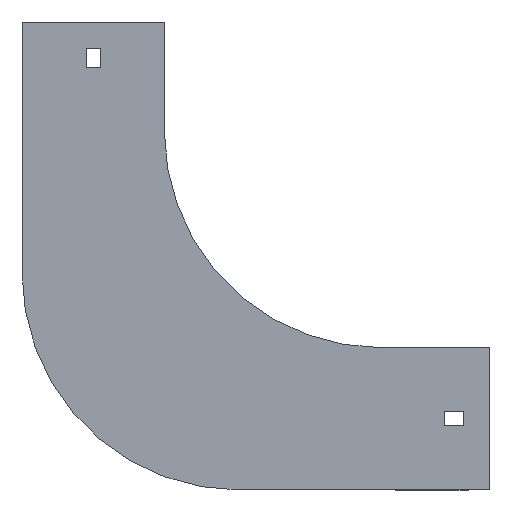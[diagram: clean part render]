
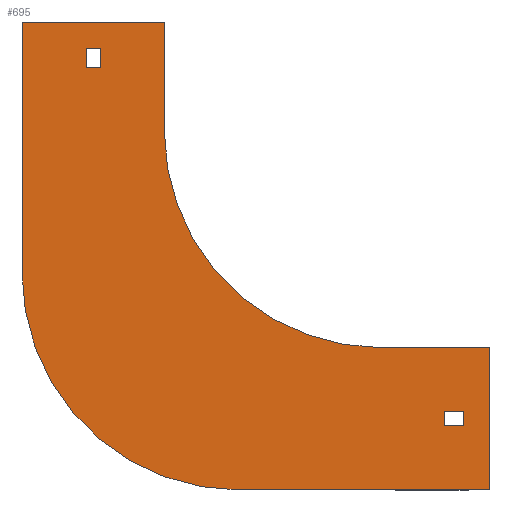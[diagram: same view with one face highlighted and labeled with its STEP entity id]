
A CAD part, front view. The second image highlights one B-rep face of the part: STEP entity #695.
In plain terms, the highlighted planar face has unit normal (0, -1, 0).
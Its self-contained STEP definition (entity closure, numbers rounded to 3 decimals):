
#1 = DIRECTION ( 'NONE',  ( -1., 0., 0. ) ) ;
#6 = EDGE_CURVE ( 'NONE', #663, #10, #756, .T. ) ;
#10 = VERTEX_POINT ( 'NONE', #207 ) ;
#12 = CARTESIAN_POINT ( 'NONE',  ( -136., 0., 29. ) ) ;
#13 = VECTOR ( 'NONE', #1178, 1000. ) ;
#18 = DIRECTION ( 'NONE',  ( 0., 0., 1. ) ) ;
#43 = DIRECTION ( 'NONE',  ( 0., 0., -1. ) ) ;
#48 = CARTESIAN_POINT ( 'NONE',  ( 0., 0., -100. ) ) ;
#55 = EDGE_CURVE ( 'NONE', #227, #1187, #323, .T. ) ;
#67 = CARTESIAN_POINT ( 'NONE',  ( 38., 0., -136. ) ) ;
#72 = CARTESIAN_POINT ( 'NONE',  ( -65.5, 0., -165.5 ) ) ;
#78 = DIRECTION ( 'NONE',  ( 0., 0., 1. ) ) ;
#80 = EDGE_CURVE ( 'NONE', #1276, #1072, #1283, .T. ) ;
#102 = VERTEX_POINT ( 'NONE', #766 ) ;
#111 = ORIENTED_EDGE ( 'NONE', *, *, #1318, .F. ) ;
#125 = CARTESIAN_POINT ( 'NONE',  ( 50., 0., -100. ) ) ;
#126 = CARTESIAN_POINT ( 'NONE',  ( 38., 0., -129.5 ) ) ;
#131 = ORIENTED_EDGE ( 'NONE', *, *, #252, .F. ) ;
#144 = VECTOR ( 'NONE', #1393, 1000. ) ;
#170 = CARTESIAN_POINT ( 'NONE',  ( -136., 0., 38. ) ) ;
#171 = VERTEX_POINT ( 'NONE', #1371 ) ;
#181 = CARTESIAN_POINT ( 'NONE',  ( -100., 0., 50. ) ) ;
#188 = VECTOR ( 'NONE', #1220, 1000. ) ;
#204 = ORIENTED_EDGE ( 'NONE', *, *, #1217, .F. ) ;
#207 = CARTESIAN_POINT ( 'NONE',  ( 29., 0., -136. ) ) ;
#227 = VERTEX_POINT ( 'NONE', #963 ) ;
#237 = EDGE_CURVE ( 'NONE', #1014, #1030, #1287, .T. ) ;
#247 = VECTOR ( 'NONE', #604, 1000. ) ;
#250 = CARTESIAN_POINT ( 'NONE',  ( 50., 0., -165.5 ) ) ;
#252 = EDGE_CURVE ( 'NONE', #1072, #171, #415, .T. ) ;
#265 = CARTESIAN_POINT ( 'NONE',  ( -165.5, 0., 50. ) ) ;
#268 = DIRECTION ( 'NONE',  ( -1., 0., 0. ) ) ;
#269 = CARTESIAN_POINT ( 'NONE',  ( 0., 0., 0. ) ) ;
#276 = DIRECTION ( 'NONE',  ( 0., 0., -1. ) ) ;
#278 = VECTOR ( 'NONE', #495, 1000. ) ;
#302 = CARTESIAN_POINT ( 'NONE',  ( -129.5, 0., 29. ) ) ;
#307 = ORIENTED_EDGE ( 'NONE', *, *, #797, .T. ) ;
#311 = CARTESIAN_POINT ( 'NONE',  ( 29., 0., -129.5 ) ) ;
#313 = DIRECTION ( 'NONE',  ( 0., 0., -1. ) ) ;
#323 = LINE ( 'NONE', #125, #802 ) ;
#370 = FACE_BOUND ( 'NONE', #711, .T. ) ;
#381 = ORIENTED_EDGE ( 'NONE', *, *, #689, .T. ) ;
#387 = ORIENTED_EDGE ( 'NONE', *, *, #630, .F. ) ;
#415 = LINE ( 'NONE', #734, #247 ) ;
#437 = DIRECTION ( 'NONE',  ( -1., 0., 0. ) ) ;
#442 = ORIENTED_EDGE ( 'NONE', *, *, #791, .F. ) ;
#447 = ORIENTED_EDGE ( 'NONE', *, *, #1043, .T. ) ;
#464 = FACE_BOUND ( 'NONE', #721, .T. ) ;
#486 = VECTOR ( 'NONE', #1345, 1000. ) ;
#490 = EDGE_CURVE ( 'NONE', #1026, #227, #572, .T. ) ;
#494 = DIRECTION ( 'NONE',  ( 0., -1., 0. ) ) ;
#495 = DIRECTION ( 'NONE',  ( 1., 0., 0. ) ) ;
#568 = VECTOR ( 'NONE', #1024, 1000. ) ;
#572 = LINE ( 'NONE', #48, #278 ) ;
#573 = VERTEX_POINT ( 'NONE', #126 ) ;
#587 = VERTEX_POINT ( 'NONE', #1012 ) ;
#602 = AXIS2_PLACEMENT_3D ( 'NONE', #790, #1243, #18 ) ;
#604 = DIRECTION ( 'NONE',  ( 0., 0., 1. ) ) ;
#620 = LINE ( 'NONE', #311, #962 ) ;
#621 = ORIENTED_EDGE ( 'NONE', *, *, #237, .T. ) ;
#630 = EDGE_CURVE ( 'NONE', #1187, #1276, #1118, .T. ) ;
#631 = DIRECTION ( 'NONE',  ( 0., 0., -1. ) ) ;
#647 = EDGE_CURVE ( 'NONE', #171, #1009, #1361, .T. ) ;
#648 = CARTESIAN_POINT ( 'NONE',  ( -100., 0., 50. ) ) ;
#658 = AXIS2_PLACEMENT_3D ( 'NONE', #1018, #1258, #276 ) ;
#661 = EDGE_LOOP ( 'NONE', ( #1086, #131, #1115, #387, #1228, #952, #706, #442 ) ) ;
#662 = LINE ( 'NONE', #12, #1173 ) ;
#663 = VERTEX_POINT ( 'NONE', #1252 ) ;
#666 = VECTOR ( 'NONE', #313, 1000. ) ;
#689 = EDGE_CURVE ( 'NONE', #102, #1014, #889, .T. ) ;
#692 = CARTESIAN_POINT ( 'NONE',  ( -165.5, 0., -65.5 ) ) ;
#695 = ADVANCED_FACE ( 'NONE', ( #370, #1147, #464 ), #925, .T. ) ;
#706 = ORIENTED_EDGE ( 'NONE', *, *, #1089, .F. ) ;
#711 = EDGE_LOOP ( 'NONE', ( #307, #381, #621, #447 ) ) ;
#712 = LINE ( 'NONE', #181, #13 ) ;
#721 = EDGE_LOOP ( 'NONE', ( #111, #796, #1387, #204 ) ) ;
#734 = CARTESIAN_POINT ( 'NONE',  ( -165.5, 0., -65.5 ) ) ;
#756 = LINE ( 'NONE', #1205, #894 ) ;
#766 = CARTESIAN_POINT ( 'NONE',  ( -136., 0., 38. ) ) ;
#769 = VECTOR ( 'NONE', #268, 1000. ) ;
#790 = CARTESIAN_POINT ( 'NONE',  ( -65.5, 0., -65.5 ) ) ;
#791 = EDGE_CURVE ( 'NONE', #1009, #1186, #712, .T. ) ;
#796 = ORIENTED_EDGE ( 'NONE', *, *, #886, .F. ) ;
#797 = EDGE_CURVE ( 'NONE', #587, #102, #1374, .T. ) ;
#801 = DIRECTION ( 'NONE',  ( 0., 0., -1. ) ) ;
#802 = VECTOR ( 'NONE', #43, 1000. ) ;
#877 = VERTEX_POINT ( 'NONE', #1355 ) ;
#882 = CARTESIAN_POINT ( 'NONE',  ( 29., 0., -136. ) ) ;
#886 = EDGE_CURVE ( 'NONE', #10, #877, #1327, .T. ) ;
#889 = LINE ( 'NONE', #170, #486 ) ;
#894 = VECTOR ( 'NONE', #631, 1000. ) ;
#896 = CARTESIAN_POINT ( 'NONE',  ( 0., 0., -100. ) ) ;
#925 = PLANE ( 'NONE',  #658 ) ;
#952 = ORIENTED_EDGE ( 'NONE', *, *, #490, .F. ) ;
#962 = VECTOR ( 'NONE', #1, 1000. ) ;
#963 = CARTESIAN_POINT ( 'NONE',  ( 50., 0., -100. ) ) ;
#1001 = VECTOR ( 'NONE', #78, 1000. ) ;
#1009 = VERTEX_POINT ( 'NONE', #648 ) ;
#1012 = CARTESIAN_POINT ( 'NONE',  ( -136., 0., 29. ) ) ;
#1014 = VERTEX_POINT ( 'NONE', #1126 ) ;
#1018 = CARTESIAN_POINT ( 'NONE',  ( 0., 0., 0. ) ) ;
#1024 = DIRECTION ( 'NONE',  ( 1., 0., 0. ) ) ;
#1026 = VERTEX_POINT ( 'NONE', #896 ) ;
#1030 = VERTEX_POINT ( 'NONE', #1237 ) ;
#1043 = EDGE_CURVE ( 'NONE', #1030, #587, #662, .T. ) ;
#1072 = VERTEX_POINT ( 'NONE', #692 ) ;
#1083 = AXIS2_PLACEMENT_3D ( 'NONE', #269, #494, #801 ) ;
#1086 = ORIENTED_EDGE ( 'NONE', *, *, #647, .F. ) ;
#1089 = EDGE_CURVE ( 'NONE', #1186, #1026, #1150, .T. ) ;
#1115 = ORIENTED_EDGE ( 'NONE', *, *, #80, .F. ) ;
#1118 = LINE ( 'NONE', #250, #769 ) ;
#1126 = CARTESIAN_POINT ( 'NONE',  ( -129.5, 0., 38. ) ) ;
#1147 = FACE_OUTER_BOUND ( 'NONE', #661, .T. ) ;
#1150 = CIRCLE ( 'NONE', #1083, 100. ) ;
#1173 = VECTOR ( 'NONE', #437, 1000. ) ;
#1178 = DIRECTION ( 'NONE',  ( 0., 0., -1. ) ) ;
#1185 = CARTESIAN_POINT ( 'NONE',  ( -136., 0., 29. ) ) ;
#1186 = VERTEX_POINT ( 'NONE', #1189 ) ;
#1187 = VERTEX_POINT ( 'NONE', #1291 ) ;
#1189 = CARTESIAN_POINT ( 'NONE',  ( -100., 0., 0. ) ) ;
#1205 = CARTESIAN_POINT ( 'NONE',  ( 29., 0., -136. ) ) ;
#1217 = EDGE_CURVE ( 'NONE', #573, #663, #620, .T. ) ;
#1220 = DIRECTION ( 'NONE',  ( 1., 0., 0. ) ) ;
#1228 = ORIENTED_EDGE ( 'NONE', *, *, #55, .F. ) ;
#1237 = CARTESIAN_POINT ( 'NONE',  ( -129.5, 0., 29. ) ) ;
#1243 = DIRECTION ( 'NONE',  ( 0., 1., 0. ) ) ;
#1249 = LINE ( 'NONE', #67, #1001 ) ;
#1252 = CARTESIAN_POINT ( 'NONE',  ( 29., 0., -129.5 ) ) ;
#1258 = DIRECTION ( 'NONE',  ( 0., -1., 0. ) ) ;
#1276 = VERTEX_POINT ( 'NONE', #72 ) ;
#1283 = CIRCLE ( 'NONE', #602, 100. ) ;
#1287 = LINE ( 'NONE', #302, #666 ) ;
#1291 = CARTESIAN_POINT ( 'NONE',  ( 50., 0., -165.5 ) ) ;
#1318 = EDGE_CURVE ( 'NONE', #877, #573, #1249, .T. ) ;
#1327 = LINE ( 'NONE', #882, #188 ) ;
#1345 = DIRECTION ( 'NONE',  ( 1., 0., 0. ) ) ;
#1355 = CARTESIAN_POINT ( 'NONE',  ( 38., 0., -136. ) ) ;
#1361 = LINE ( 'NONE', #265, #568 ) ;
#1371 = CARTESIAN_POINT ( 'NONE',  ( -165.5, 0., 50. ) ) ;
#1374 = LINE ( 'NONE', #1185, #144 ) ;
#1387 = ORIENTED_EDGE ( 'NONE', *, *, #6, .F. ) ;
#1393 = DIRECTION ( 'NONE',  ( 0., 0., 1. ) ) ;
